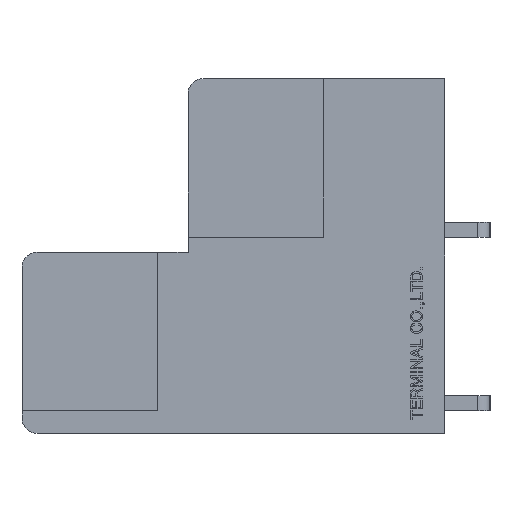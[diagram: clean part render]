
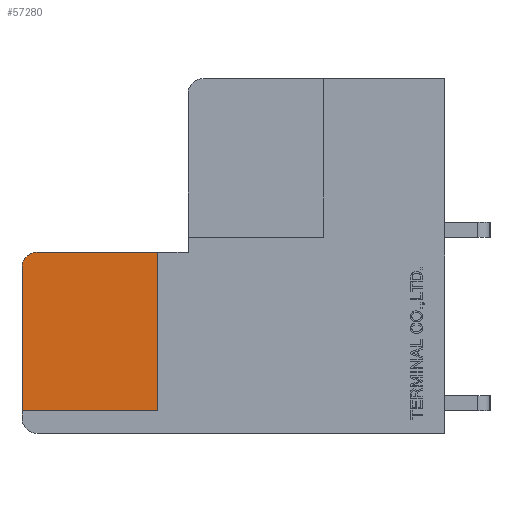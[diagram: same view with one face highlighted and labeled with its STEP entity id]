
A CAD part, left-side view. The second image highlights one B-rep face of the part: STEP entity #57280.
In plain terms, the highlighted planar face has unit normal (-1, 0, 0).
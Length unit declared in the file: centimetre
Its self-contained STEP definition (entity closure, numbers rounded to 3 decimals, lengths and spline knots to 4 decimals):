
#693=CIRCLE('',#97841,0.1);
#3299=VERTEX_POINT('',#75984);
#3300=VERTEX_POINT('',#75985);
#3303=VERTEX_POINT('',#75993);
#3305=VERTEX_POINT('',#75999);
#3306=VERTEX_POINT('',#76001);
#9312=VECTOR('',#63653,1.);
#9316=VECTOR('',#63658,1.);
#9319=VECTOR('',#63662,1.);
#9320=VECTOR('',#63665,1.);
#16101=LINE('',#75983,#9312);
#16105=LINE('',#75992,#9316);
#16108=LINE('',#75998,#9319);
#16109=LINE('',#76002,#9320);
#22994=EDGE_CURVE('',#3299,#3300,#16101,.T.);
#22998=EDGE_CURVE('',#3303,#3299,#16105,.T.);
#23001=EDGE_CURVE('',#3305,#3300,#16108,.T.);
#23002=EDGE_CURVE('',#3306,#3305,#693,.T.);
#23003=EDGE_CURVE('',#3303,#3306,#16109,.T.);
#32334=ORIENTED_EDGE('',*,*,#22998,.T.);
#32335=ORIENTED_EDGE('',*,*,#22994,.T.);
#32336=ORIENTED_EDGE('',*,*,#23001,.F.);
#32337=ORIENTED_EDGE('',*,*,#23002,.F.);
#32338=ORIENTED_EDGE('',*,*,#23003,.F.);
#49776=EDGE_LOOP('',(#32334,#32335,#32336,#32337,#32338));
#53530=FACE_BOUND('',#49776,.T.);
#57280=ADVANCED_FACE('',(#53530),#60691,.F.);
#60691=PLANE('',#97840);
#63653=DIRECTION('',(0.,0.,1.));
#63658=DIRECTION('',(0.,-1.,0.));
#63661=DIRECTION('',(1.,0.,0.));
#63662=DIRECTION('',(0.,-1.,0.));
#63663=DIRECTION('',(1.,0.,0.));
#63664=DIRECTION('',(0.,0.,-0.1));
#63665=DIRECTION('',(0.,0.,1.));
#75983=CARTESIAN_POINT('',(-1.76,-0.145,0.0375));
#75984=CARTESIAN_POINT('',(-1.76,-0.145,-0.45));
#75985=CARTESIAN_POINT('',(-1.76,-0.145,0.6));
#75992=CARTESIAN_POINT('',(-1.76,-0.1777,-0.45));
#75993=CARTESIAN_POINT('',(-1.76,0.755,-0.45));
#75997=CARTESIAN_POINT('',(-1.76,-0.6604,0.));
#75998=CARTESIAN_POINT('',(-1.76,0.655,0.6));
#75999=CARTESIAN_POINT('',(-1.76,0.655,0.6));
#76000=CARTESIAN_POINT('',(-1.76,0.655,0.5));
#76001=CARTESIAN_POINT('',(-1.76,0.755,0.5));
#76002=CARTESIAN_POINT('',(-1.76,0.755,-0.5));
#97840=AXIS2_PLACEMENT_3D('',#75997,#63661,$);
#97841=AXIS2_PLACEMENT_3D('',#76000,#63663,#63664);
